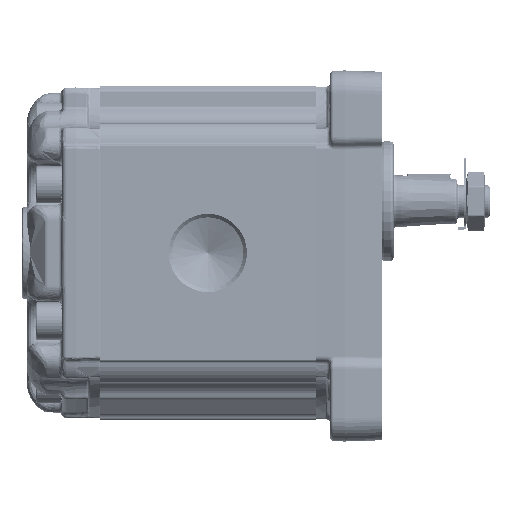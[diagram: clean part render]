
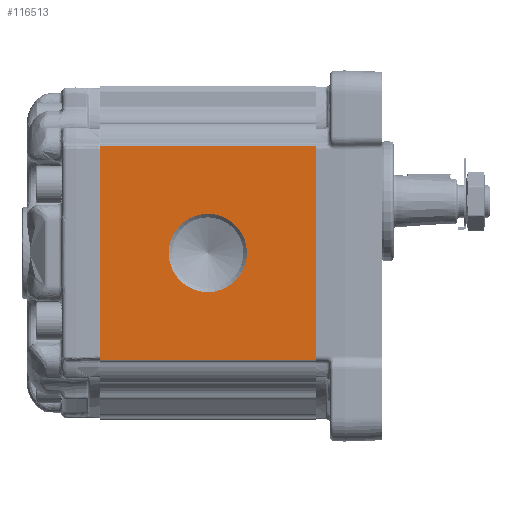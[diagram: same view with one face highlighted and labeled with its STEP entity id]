
A CAD part, left-side view. The second image highlights one B-rep face of the part: STEP entity #116513.
In plain terms, the highlighted planar face has unit normal (-1, 0, 0).
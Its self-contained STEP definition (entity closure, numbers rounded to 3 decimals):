
#6816=PLANE('',#123162);
#9642=LINE('',#179297,#14501);
#9653=LINE('',#179382,#14512);
#9691=LINE('',#179482,#14550);
#9692=LINE('',#179483,#14551);
#14501=VECTOR('',#137099,1000.);
#14512=VECTOR('',#137174,1000.);
#14550=VECTOR('',#137292,1000.);
#14551=VECTOR('',#137293,1000.);
#29592=ORIENTED_EDGE('',*,*,#50537,.T.);
#29593=ORIENTED_EDGE('',*,*,#50441,.F.);
#29594=ORIENTED_EDGE('',*,*,#50538,.T.);
#29595=ORIENTED_EDGE('',*,*,#50483,.F.);
#29596=ORIENTED_EDGE('',*,*,#50539,.T.);
#50441=EDGE_CURVE('',#61779,#61780,#9642,.T.);
#50483=EDGE_CURVE('',#61821,#61822,#9653,.T.);
#50537=EDGE_CURVE('',#61843,#61843,#68626,.F.);
#50538=EDGE_CURVE('',#61779,#61822,#9691,.F.);
#50539=EDGE_CURVE('',#61821,#61780,#9692,.F.);
#61779=VERTEX_POINT('',#179296);
#61780=VERTEX_POINT('',#179298);
#61821=VERTEX_POINT('',#179381);
#61822=VERTEX_POINT('',#179383);
#61843=VERTEX_POINT('',#179481);
#68626=CIRCLE('',#123163,16.646);
#72853=EDGE_LOOP('',(#29592));
#72854=EDGE_LOOP('',(#29593,#29594,#29595,#29596));
#77873=FACE_BOUND('',#72853,.T.);
#77874=FACE_BOUND('',#72854,.T.);
#116513=ADVANCED_FACE('',(#77873,#77874),#6816,.T.);
#123162=AXIS2_PLACEMENT_3D('',#179479,#137288,#137289);
#123163=AXIS2_PLACEMENT_3D('',#179480,#137290,#137291);
#137099=DIRECTION('',(0.,0.,1.));
#137174=DIRECTION('',(0.,0.,-1.));
#137288=DIRECTION('',(-1.,0.,0.));
#137289=DIRECTION('',(0.,0.,-1.));
#137290=DIRECTION('',(-1.,0.,0.));
#137291=DIRECTION('',(0.,0.,-1.));
#137292=DIRECTION('',(0.,1.,0.));
#137293=DIRECTION('',(0.,-1.,0.));
#179296=CARTESIAN_POINT('',(-57.5,92.,-45.5));
#179297=CARTESIAN_POINT('',(-57.5,92.,-84.819));
#179298=CARTESIAN_POINT('',(-57.5,92.,45.5));
#179381=CARTESIAN_POINT('',(-57.5,0.,45.5));
#179382=CARTESIAN_POINT('',(-57.5,0.,-44.978));
#179383=CARTESIAN_POINT('',(-57.5,0.,-45.5));
#179479=CARTESIAN_POINT('',(-57.5,-138.655,-84.819));
#179480=CARTESIAN_POINT('',(-57.5,46.,0.));
#179481=CARTESIAN_POINT('',(-57.5,46.,-16.646));
#179482=CARTESIAN_POINT('',(-57.5,-138.655,-45.5));
#179483=CARTESIAN_POINT('',(-57.5,-138.655,45.5));
